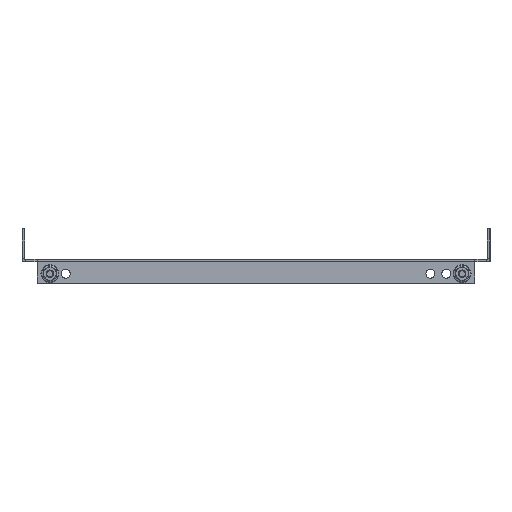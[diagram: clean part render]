
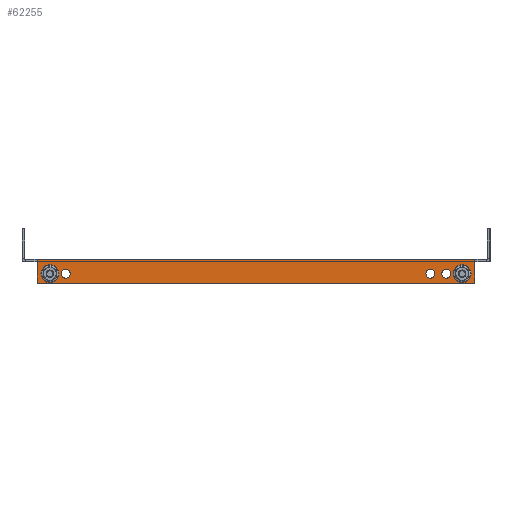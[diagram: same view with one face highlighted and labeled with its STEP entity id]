
A CAD part, left-side view. The second image highlights one B-rep face of the part: STEP entity #62255.
In plain terms, the highlighted planar face has unit normal (-1, 0, 0).
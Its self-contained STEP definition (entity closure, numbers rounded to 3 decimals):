
#46472 = VERTEX_POINT('',#46473);
#46473 = CARTESIAN_POINT('',(-350.,172.5,2.));
#46479 = EDGE_CURVE('',#46480,#46472,#46482,.T.);
#46480 = VERTEX_POINT('',#46481);
#46481 = CARTESIAN_POINT('',(-350.,-172.5,2.));
#46482 = LINE('',#46483,#46484);
#46483 = CARTESIAN_POINT('',(-350.,-182.5,2.));
#46484 = VECTOR('',#46485,1.);
#46485 = DIRECTION('',(0.,1.,-0.));
#62134 = VERTEX_POINT('',#62135);
#62135 = CARTESIAN_POINT('',(-350.,-172.5,-0.6));
#62150 = EDGE_CURVE('',#62134,#46480,#62151,.T.);
#62151 = LINE('',#62152,#62153);
#62152 = CARTESIAN_POINT('',(-350.,-172.5,-0.6));
#62153 = VECTOR('',#62154,1.);
#62154 = DIRECTION('',(0.,-0.,1.));
#62174 = VERTEX_POINT('',#62175);
#62175 = CARTESIAN_POINT('',(-350.,172.5,-0.6));
#62181 = EDGE_CURVE('',#62174,#46472,#62182,.T.);
#62182 = LINE('',#62183,#62184);
#62183 = CARTESIAN_POINT('',(-350.,172.5,0.));
#62184 = VECTOR('',#62185,1.);
#62185 = DIRECTION('',(0.,0.,1.));
#62197 = EDGE_CURVE('',#62198,#62174,#62200,.T.);
#62198 = VERTEX_POINT('',#62199);
#62199 = CARTESIAN_POINT('',(-350.,172.5,-17.));
#62200 = LINE('',#62201,#62202);
#62201 = CARTESIAN_POINT('',(-350.,172.5,0.));
#62202 = VECTOR('',#62203,1.);
#62203 = DIRECTION('',(0.,0.,1.));
#62237 = EDGE_CURVE('',#62134,#62238,#62240,.T.);
#62238 = VERTEX_POINT('',#62239);
#62239 = CARTESIAN_POINT('',(-350.,-172.5,-17.));
#62240 = LINE('',#62241,#62242);
#62241 = CARTESIAN_POINT('',(-350.,-172.5,-17.));
#62242 = VECTOR('',#62243,1.);
#62243 = DIRECTION('',(0.,0.,-1.));
#62255 = ADVANCED_FACE('',(#62256,#62267,#62287,#62307,#62318,#62329),
  #62342,.T.);
#62256 = FACE_BOUND('',#62257,.T.);
#62257 = EDGE_LOOP('',(#62258));
#62258 = ORIENTED_EDGE('',*,*,#62259,.T.);
#62259 = EDGE_CURVE('',#62260,#62260,#62262,.T.);
#62260 = VERTEX_POINT('',#62261);
#62261 = CARTESIAN_POINT('',(-350.,-137.5,-13.));
#62262 = CIRCLE('',#62263,3.5);
#62263 = AXIS2_PLACEMENT_3D('',#62264,#62265,#62266);
#62264 = CARTESIAN_POINT('',(-350.,-137.5,-9.5));
#62265 = DIRECTION('',(1.,0.,0.));
#62266 = DIRECTION('',(0.,-0.,-1.));
#62267 = FACE_BOUND('',#62268,.T.);
#62268 = EDGE_LOOP('',(#62269,#62280));
#62269 = ORIENTED_EDGE('',*,*,#62270,.F.);
#62270 = EDGE_CURVE('',#62271,#62273,#62275,.T.);
#62271 = VERTEX_POINT('',#62272);
#62272 = CARTESIAN_POINT('',(-350.,-162.5,-13.));
#62273 = VERTEX_POINT('',#62274);
#62274 = CARTESIAN_POINT('',(-350.,-162.5,-6.));
#62275 = CIRCLE('',#62276,3.5);
#62276 = AXIS2_PLACEMENT_3D('',#62277,#62278,#62279);
#62277 = CARTESIAN_POINT('',(-350.,-162.5,-9.5));
#62278 = DIRECTION('',(-1.,0.,0.));
#62279 = DIRECTION('',(0.,0.,-1.));
#62280 = ORIENTED_EDGE('',*,*,#62281,.F.);
#62281 = EDGE_CURVE('',#62273,#62271,#62282,.T.);
#62282 = CIRCLE('',#62283,3.5);
#62283 = AXIS2_PLACEMENT_3D('',#62284,#62285,#62286);
#62284 = CARTESIAN_POINT('',(-350.,-162.5,-9.5));
#62285 = DIRECTION('',(-1.,0.,0.));
#62286 = DIRECTION('',(0.,0.,-1.));
#62287 = FACE_BOUND('',#62288,.T.);
#62288 = EDGE_LOOP('',(#62289,#62300));
#62289 = ORIENTED_EDGE('',*,*,#62290,.F.);
#62290 = EDGE_CURVE('',#62291,#62293,#62295,.T.);
#62291 = VERTEX_POINT('',#62292);
#62292 = CARTESIAN_POINT('',(-350.,-150.,-13.));
#62293 = VERTEX_POINT('',#62294);
#62294 = CARTESIAN_POINT('',(-350.,-150.,-6.));
#62295 = CIRCLE('',#62296,3.5);
#62296 = AXIS2_PLACEMENT_3D('',#62297,#62298,#62299);
#62297 = CARTESIAN_POINT('',(-350.,-150.,-9.5));
#62298 = DIRECTION('',(-1.,0.,0.));
#62299 = DIRECTION('',(0.,0.,-1.));
#62300 = ORIENTED_EDGE('',*,*,#62301,.F.);
#62301 = EDGE_CURVE('',#62293,#62291,#62302,.T.);
#62302 = CIRCLE('',#62303,3.5);
#62303 = AXIS2_PLACEMENT_3D('',#62304,#62305,#62306);
#62304 = CARTESIAN_POINT('',(-350.,-150.,-9.5));
#62305 = DIRECTION('',(-1.,0.,0.));
#62306 = DIRECTION('',(0.,0.,-1.));
#62307 = FACE_BOUND('',#62308,.T.);
#62308 = EDGE_LOOP('',(#62309));
#62309 = ORIENTED_EDGE('',*,*,#62310,.F.);
#62310 = EDGE_CURVE('',#62311,#62311,#62313,.T.);
#62311 = VERTEX_POINT('',#62312);
#62312 = CARTESIAN_POINT('',(-350.,150.,-6.));
#62313 = CIRCLE('',#62314,3.5);
#62314 = AXIS2_PLACEMENT_3D('',#62315,#62316,#62317);
#62315 = CARTESIAN_POINT('',(-350.,150.,-9.5));
#62316 = DIRECTION('',(-1.,0.,0.));
#62317 = DIRECTION('',(0.,0.,1.));
#62318 = FACE_BOUND('',#62319,.T.);
#62319 = EDGE_LOOP('',(#62320));
#62320 = ORIENTED_EDGE('',*,*,#62321,.F.);
#62321 = EDGE_CURVE('',#62322,#62322,#62324,.T.);
#62322 = VERTEX_POINT('',#62323);
#62323 = CARTESIAN_POINT('',(-350.,162.5,-6.));
#62324 = CIRCLE('',#62325,3.5);
#62325 = AXIS2_PLACEMENT_3D('',#62326,#62327,#62328);
#62326 = CARTESIAN_POINT('',(-350.,162.5,-9.5));
#62327 = DIRECTION('',(-1.,0.,0.));
#62328 = DIRECTION('',(0.,0.,1.));
#62329 = FACE_BOUND('',#62330,.T.);
#62330 = EDGE_LOOP('',(#62331,#62332,#62333,#62334,#62335,#62336));
#62331 = ORIENTED_EDGE('',*,*,#62237,.F.);
#62332 = ORIENTED_EDGE('',*,*,#62150,.T.);
#62333 = ORIENTED_EDGE('',*,*,#46479,.T.);
#62334 = ORIENTED_EDGE('',*,*,#62181,.F.);
#62335 = ORIENTED_EDGE('',*,*,#62197,.F.);
#62336 = ORIENTED_EDGE('',*,*,#62337,.F.);
#62337 = EDGE_CURVE('',#62238,#62198,#62338,.T.);
#62338 = LINE('',#62339,#62340);
#62339 = CARTESIAN_POINT('',(-350.,172.5,-17.));
#62340 = VECTOR('',#62341,1.);
#62341 = DIRECTION('',(0.,1.,-0.));
#62342 = PLANE('',#62343);
#62343 = AXIS2_PLACEMENT_3D('',#62344,#62345,#62346);
#62344 = CARTESIAN_POINT('',(-350.,172.5,0.));
#62345 = DIRECTION('',(-1.,0.,0.));
#62346 = DIRECTION('',(0.,0.,1.));
